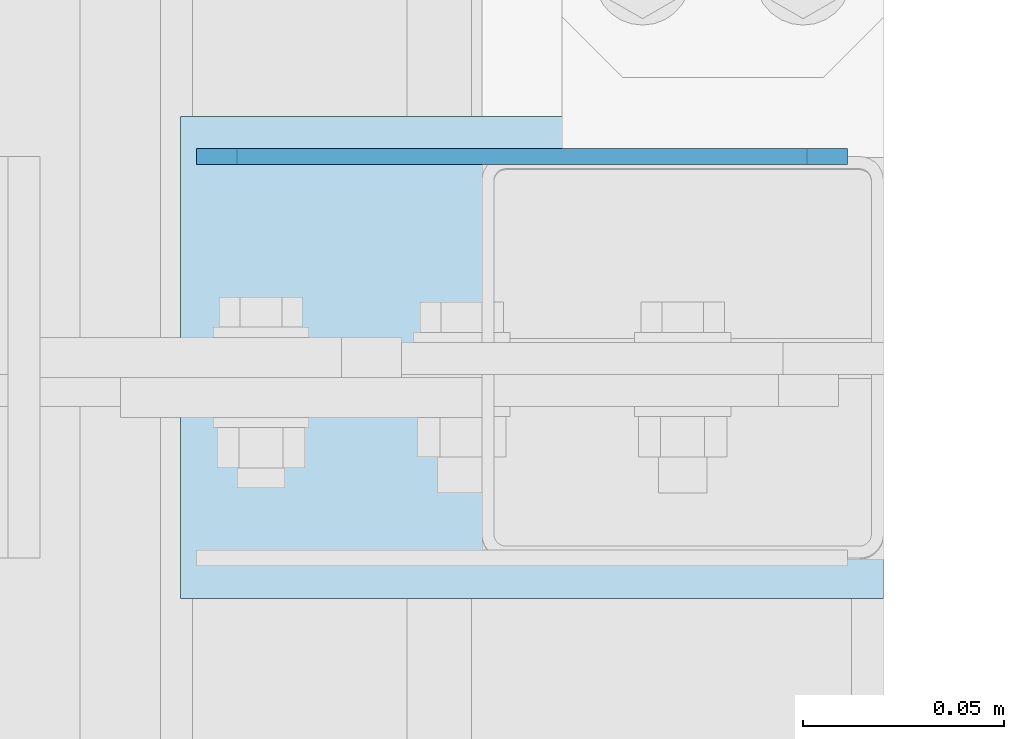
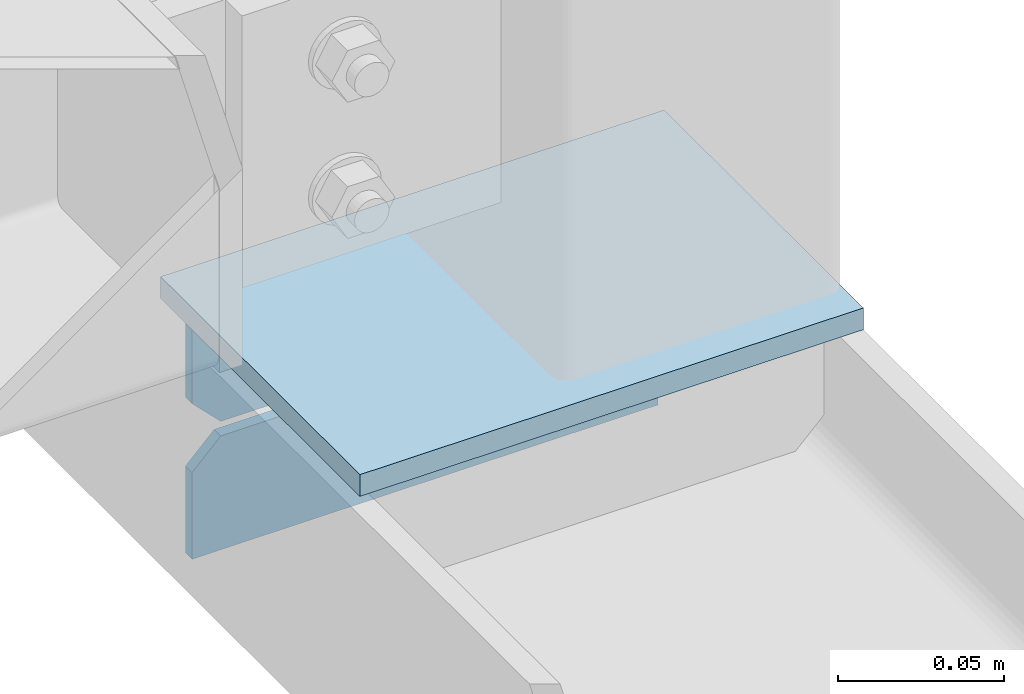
# One storey, part 161 of 271: 3 plates, 1 element without a shape of its own.
"""IFC2X3 building model written with IfcOpenShell, lengths in millimetres."""

import ifcopenshell
import ifcopenshell.guid

model = None  # the IFC model being written
_history = None  # IfcOwnerHistory: only IFC2X3 demands one
_inside = {}  # id of a spatial element -> (the spatial element, [elements in it])
_under = {}  # id of a project, library or spatial element -> (it, [spatial elements below it])
_declared = {}  # id of a project -> (the project, [libraries it declares])
_typed = {}  # id of a type object -> (the type object, [elements of that type])
_made_of = {}  # id of a material, layer set ... -> (it, [elements and type objects made of it])


def new_model(schema):
    """Start an empty IFC model of exactly this schema.

    Asked for "IFC4X3", IfcOpenShell would pick the latest addendum, in which some entities
    have other attributes; the version numbers below select the first issue.
    IFC2X3 requires an IfcOwnerHistory on every rooted entity: one is made here for all.
    """
    global model, _history
    if schema == "IFC4X3":
        model = ifcopenshell.file(schema_version=(4, 3, 0, 0))
    else:
        model = ifcopenshell.file(schema=schema)
    _inside.clear()
    _under.clear()
    _declared.clear()
    _typed.clear()
    _made_of.clear()
    _history = None
    if model.schema == "IFC2X3":
        org = make("IfcOrganization", Name="unknown")
        user = make(
            "IfcPersonAndOrganization",
            ThePerson=make("IfcPerson", FamilyName="unknown"),
            TheOrganization=org,
        )
        app = make(
            "IfcApplication",
            ApplicationDeveloper=org,
            Version="unknown",
            ApplicationFullName="unknown",
            ApplicationIdentifier="unknown",
        )
        _history = make(
            "IfcOwnerHistory",
            OwningUser=user,
            OwningApplication=app,
            ChangeAction="ADDED",
            CreationDate=0,
        )
    return model


def make(cls, **values):
    """One entity of the class cls with the attributes given. An attribute that is None is left unset."""
    return model.create_entity(
        cls, **{name: value for name, value in values.items() if value is not None}
    )


def rooted(cls, **values):
    """An entity with a GlobalId (a new one), such as an element, a storey or a relation."""
    return make(cls, GlobalId=ifcopenshell.guid.new(), OwnerHistory=_history, **values)


def si_unit(unit_type, name, prefix=None):
    """IfcSIUnit, for example si_unit("LENGTHUNIT", "METRE", prefix="MILLI")."""
    return make("IfcSIUnit", UnitType=unit_type, Prefix=prefix, Name=name)


def assignment(units):
    """IfcUnitAssignment: the units of a project."""
    return None if units is None else make("IfcUnitAssignment", Units=units)


def point(xyz):
    """IfcCartesianPoint."""
    return None if xyz is None else make("IfcCartesianPoint", Coordinates=xyz)


def direction(xyz):
    """IfcDirection."""
    return None if xyz is None else make("IfcDirection", DirectionRatios=xyz)


def frame(location, z_axis=None, x_axis=None):
    """IfcAxis2Placement3D, a coordinate frame: its origin and axes. An axis left out is left unset."""
    return make(
        "IfcAxis2Placement3D",
        Location=point(location),
        Axis=direction(z_axis),
        RefDirection=direction(x_axis),
    )


def origin_with_axes():
    """The frame at (0, 0, 0) with the z axis (0, 0, 1) and the x axis (1, 0, 0) written out."""
    return frame((0.0, 0.0, 0.0), z_axis=(0.0, 0.0, 1.0), x_axis=(1.0, 0.0, 0.0))


def place(relative_to, where):
    """IfcLocalPlacement: puts the frame where relative to a parent placement (None: the world)."""
    return make(
        "IfcLocalPlacement", PlacementRelTo=relative_to, RelativePlacement=where
    )


def context(
    kind, dimensions, precision=None, world=None, true_north=None, identifier=None
):
    """IfcGeometricRepresentationContext, for example the 3D "Model" context."""
    return make(
        "IfcGeometricRepresentationContext",
        ContextIdentifier=identifier,
        ContextType=kind,
        CoordinateSpaceDimension=dimensions,
        Precision=precision,
        WorldCoordinateSystem=world,
        TrueNorth=true_north,
    )


def subcontext(parent, identifier, kind, view, scale=None):
    """IfcGeometricRepresentationSubContext, for example "Body" below "Model"."""
    return make(
        "IfcGeometricRepresentationSubContext",
        ContextIdentifier=identifier,
        ContextType=kind,
        ParentContext=parent,
        TargetScale=scale,
        TargetView=view,
    )


def project(units=None, contexts=None):
    """IfcProject with its units and contexts."""
    return rooted(
        "IfcProject",
        Name="project",
        RepresentationContexts=contexts,
        UnitsInContext=assignment(units),
    )


def spatial(cls, under=None, at=None, **own):
    """A site, building, storey or space (cls), placed at a placement, below another one or the project."""
    s = rooted(cls, ObjectPlacement=at, **own)
    if under is not None:
        _under.setdefault(under.id(), (under, []))[1].append(s)
    return s


def polyline(points):
    """IfcPolyline through the points."""
    return make("IfcPolyline", Points=[point(p) for p in points])


def outline(outer, holes=None, kind="AREA"):
    """IfcArbitraryClosedProfileDef: a profile drawn as a closed curve; with holes, ...WithVoids."""
    if holes is None:
        return make("IfcArbitraryClosedProfileDef", ProfileType=kind, OuterCurve=outer)
    return make(
        "IfcArbitraryProfileDefWithVoids",
        ProfileType=kind,
        OuterCurve=outer,
        InnerCurves=holes,
    )


def extrude(swept, where, along, depth):
    """IfcExtrudedAreaSolid: the profile swept, set in the frame where, extruded along a direction by depth."""
    return make(
        "IfcExtrudedAreaSolid",
        SweptArea=swept,
        Position=where,
        ExtrudedDirection=direction(along),
        Depth=depth,
    )


def shape(context_of_items, identifier, shape_type, items):
    """IfcShapeRepresentation: the items that make up one representation, for example the "Body"."""
    return make(
        "IfcShapeRepresentation",
        ContextOfItems=context_of_items,
        RepresentationIdentifier=identifier,
        RepresentationType=shape_type,
        Items=items,
    )


def material(Name=None, Category=None):
    """IfcMaterial."""
    return make("IfcMaterial", Name=Name, Category=Category)


def made_of(thing, what):
    """Note that an element or type object is made of a material, layer set ...; save() writes the relation."""
    if what is not None:
        _made_of.setdefault(what.id(), (what, []))[1].append(thing)
    return thing


def type_object(cls, material=None, **own):
    """A type object (cls), such as IfcWallType, which elements share."""
    return made_of(rooted(cls, **own), material)


def element(
    cls,
    number,
    at=None,
    inside=None,
    cuts=None,
    type_object=None,
    material=None,
    context=None,
    identifier="Body",
    shape_type=None,
    held_by="IfcProductDefinitionShape",
    body=None,
    shapes=None,
    **own,
):
    """One element of the class cls, such as IfcWall. Its Tag is "e" and its number.

    at: its placement. inside: the storey or other place that contains it. cuts: it is an
    opening in that element (IfcRelVoidsElement). A single representation is given by context,
    identifier, shape_type and body (its items); several are given by shapes. held_by: the class
    of the entity that holds the representations. save() writes the other relations.
    """
    e = rooted(cls, Tag="e%d" % number, ObjectPlacement=at, **own)
    if body is not None:
        shapes = [shape(context, identifier, shape_type, body)]
    if shapes is not None:
        e.Representation = make(held_by, Representations=shapes)
    if inside is not None:
        _inside.setdefault(inside.id(), (inside, []))[1].append(e)
    if cuts is not None:
        rooted(
            "IfcRelVoidsElement", RelatingBuildingElement=cuts, RelatedOpeningElement=e
        )
    if type_object is not None:
        _typed.setdefault(type_object.id(), (type_object, []))[1].append(e)
    return made_of(e, material)


def aggregate(whole, parts):
    """IfcRelAggregates: a whole, such as a stair, and the parts it consists of."""
    return rooted("IfcRelAggregates", RelatingObject=whole, RelatedObjects=parts)


def save(model, path):
    """Write the relations noted so far, then the file.

    IfcRelAggregates (storeys below a building ...), IfcRelContainedInSpatialStructure (elements
    in a storey), IfcRelDefinesByType, IfcRelAssociatesMaterial and IfcRelDeclares: one each for
    every whole, place, type object, material and project.
    """
    for whole, parts in _under.values():
        aggregate(whole, parts)
    for where, things in _inside.values():
        rooted(
            "IfcRelContainedInSpatialStructure",
            RelatedElements=things,
            RelatingStructure=where,
        )
    for kind, things in _typed.values():
        rooted("IfcRelDefinesByType", RelatedObjects=things, RelatingType=kind)
    for what, things in _made_of.values():
        rooted("IfcRelAssociatesMaterial", RelatedObjects=things, RelatingMaterial=what)
    for by, libraries in _declared.values():
        rooted("IfcRelDeclares", RelatingContext=by, RelatedDefinitions=libraries)
    model.write(path)


model = new_model("IFC2X3")

# Units and contexts
model_context = context("Model", 3, precision=1e-05, world=origin_with_axes())
body_context = subcontext(model_context, "Body", "Model", "MODEL_VIEW")
ifc_project = project(units=[si_unit("LENGTHUNIT", "METRE", prefix="MILLI"), si_unit("AREAUNIT", "SQUARE_METRE"), si_unit("VOLUMEUNIT", "CUBIC_METRE"), si_unit("MASSUNIT", "GRAM", prefix="KILO"), si_unit("TIMEUNIT", "SECOND"), si_unit("PLANEANGLEUNIT", "RADIAN"), si_unit("SOLIDANGLEUNIT", "STERADIAN"), si_unit("THERMODYNAMICTEMPERATUREUNIT", "DEGREE_CELSIUS"), si_unit("LUMINOUSINTENSITYUNIT", "LUMEN")], contexts=[model_context])

# Site, building, storey
site_placement = place(None, origin_with_axes())
site = spatial("IfcSite", under=ifc_project, at=site_placement, Name="Undefined", CompositionType="ELEMENT")
building_placement = place(site_placement, origin_with_axes())
building = spatial("IfcBuilding", under=site, at=building_placement, Name="Undefined", CompositionType="ELEMENT")
storey_placement = place(building_placement, origin_with_axes())
storey = spatial("IfcBuildingStorey", under=building, at=storey_placement, Name="Undefined", CompositionType="ELEMENT", Elevation=0.0)

# Assembly, plates
assembly_placement = place(storey_placement, origin_with_axes())
assembly = element("IfcElementAssembly", 1, at=assembly_placement, inside=storey, AssemblyPlace="NOTDEFINED", PredefinedType="RIGID_FRAME")
ifc_material = material(Name="STEEL/S355JR")
plate_type_1 = type_object("IfcPlateType", Name="BL4*42", PredefinedType="NOTDEFINED")
plate_1_placement = place(assembly_placement, frame((12537.3756870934, 949.32498425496, 19959.8499999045), z_axis=(0.0, 1.0, 0.0), x_axis=(0.0, 0.0, 1.0)))
plate_1 = element("IfcPlate", 2, at=plate_1_placement, type_object=plate_type_1, material=ifc_material, Name="BLACHA", ObjectType="BL4*42", context=body_context, shape_type="SweptSolid", body=[
    extrude(outline(polyline([(0.0, 0.0), (31.8499984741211, 0.0), (41.8499984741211, 10.0), (41.8499984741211, 152.0), (31.8499984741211, 162.0), (0.0, 162.0), (0.0, 0.0)])), frame((0.0, 0.0, -2.0), z_axis=(0.0, 0.0, 1.0), x_axis=(1.0, 0.0, 0.0)), (0.0, 0.0, 1.0), 4.0),
])
plate_2_placement = place(assembly_placement, frame((12537.3756870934, 949.32498425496, 20007.0), z_axis=(0.0, 1.0, 0.0), x_axis=(0.0, 0.0, 1.0)))
plate_2 = element("IfcPlate", 3, at=plate_2_placement, type_object=plate_type_1, material=ifc_material, Name="BLACHA", ObjectType="BL4*42", context=body_context, shape_type="SweptSolid", body=[
    extrude(outline(polyline([(0.0, 10.0), (10.0, -1.24344978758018e-14), (41.8499984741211, -1.06581410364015e-14), (41.8499984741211, 162.0), (10.0, 162.0), (0.0, 152.0), (0.0, 10.0)])), frame((0.0, 0.0, -2.0), z_axis=(0.0, 0.0, 1.0), x_axis=(1.0, 0.0, 0.0)), (0.0, 0.0, 1.0), 4.0),
])
plate_type_2 = type_object("IfcPlateType", Name="BL8*120", PredefinedType="NOTDEFINED")
plate_3_placement = place(assembly_placement, frame((12533.3756870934, 959.32498425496, 20053.8499999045), z_axis=(0.0, 0.0, -1.0), x_axis=(1.0, 0.0, 0.0)))
plate_3 = element("IfcPlate", 4, at=plate_3_placement, type_object=plate_type_2, material=ifc_material, Name="BLACHA", ObjectType="BL8*120", context=body_context, shape_type="SweptSolid", body=[
    extrude(outline(polyline([(0.0, 0.0), (175.0, 0.0), (175.0, 120.0), (0.0, 120.0), (0.0, 0.0)])), frame((0.0, 0.0, -4.0), z_axis=(0.0, 0.0, 1.0), x_axis=(1.0, 0.0, 0.0)), (0.0, 0.0, 1.0), 8.0),
])
aggregate(assembly, [plate_1, plate_2, plate_3])

save(model, "model.ifc")
